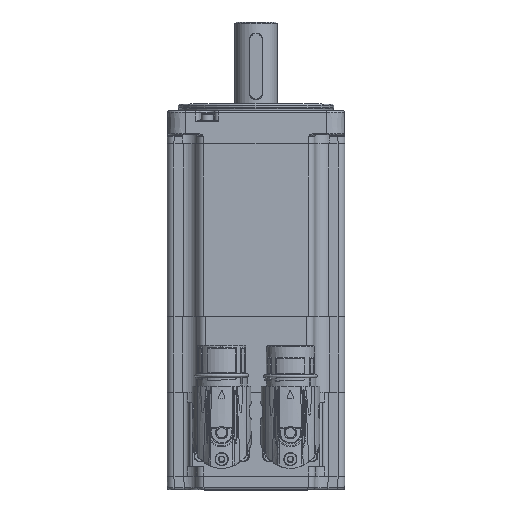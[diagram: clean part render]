
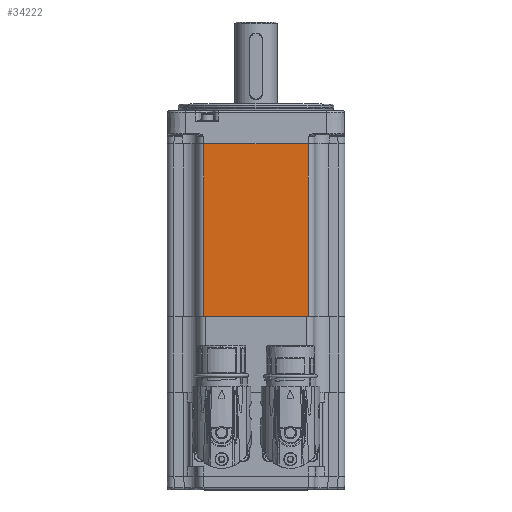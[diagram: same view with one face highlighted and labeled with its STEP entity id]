
A CAD part, top view. The second image highlights one B-rep face of the part: STEP entity #34222.
In plain terms, the highlighted planar face has unit normal (0, 0, 1).
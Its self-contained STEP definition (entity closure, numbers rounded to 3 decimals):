
#4103=LINE('',#80492,#6179);
#4117=LINE('',#80563,#6193);
#4133=LINE('',#80635,#6209);
#4134=LINE('',#80636,#6210);
#6179=VECTOR('',#58363,1000.);
#6193=VECTOR('',#58421,1000.);
#6209=VECTOR('',#58495,1000.);
#6210=VECTOR('',#58496,1000.);
#7072=PLANE('',#49602);
#16482=ORIENTED_EDGE('',*,*,#21339,.T.);
#16483=ORIENTED_EDGE('',*,*,#21305,.T.);
#16484=ORIENTED_EDGE('',*,*,#21340,.T.);
#16485=ORIENTED_EDGE('',*,*,#21270,.T.);
#21270=EDGE_CURVE('',#24575,#24573,#4103,.T.);
#21305=EDGE_CURVE('',#24610,#24609,#4117,.T.);
#21339=EDGE_CURVE('',#24573,#24610,#4133,.F.);
#21340=EDGE_CURVE('',#24609,#24575,#4134,.F.);
#24573=VERTEX_POINT('',#80490);
#24575=VERTEX_POINT('',#80493);
#24609=VERTEX_POINT('',#80562);
#24610=VERTEX_POINT('',#80564);
#28810=EDGE_LOOP('',(#16482,#16483,#16484,#16485));
#31565=FACE_BOUND('',#28810,.T.);
#34222=ADVANCED_FACE('',(#31565),#7072,.T.);
#49602=AXIS2_PLACEMENT_3D('',#80634,#58493,#58494);
#58363=DIRECTION('',(0.,-1.,0.));
#58421=DIRECTION('',(0.,1.,0.));
#58493=DIRECTION('',(0.,0.,1.));
#58494=DIRECTION('',(1.,0.,0.));
#58495=DIRECTION('',(-1.,0.,0.));
#58496=DIRECTION('',(1.,0.,0.));
#80490=CARTESIAN_POINT('',(-79.,-23.5,40.));
#80492=CARTESIAN_POINT('',(-79.,40.,40.));
#80493=CARTESIAN_POINT('',(-79.,23.5,40.));
#80562=CARTESIAN_POINT('',(-1.,23.5,40.));
#80563=CARTESIAN_POINT('',(-1.,40.,40.));
#80564=CARTESIAN_POINT('',(-1.,-23.5,40.));
#80634=CARTESIAN_POINT('',(-200.,40.,40.));
#80635=CARTESIAN_POINT('',(0.,-23.5,40.));
#80636=CARTESIAN_POINT('',(-200.,23.5,40.));
